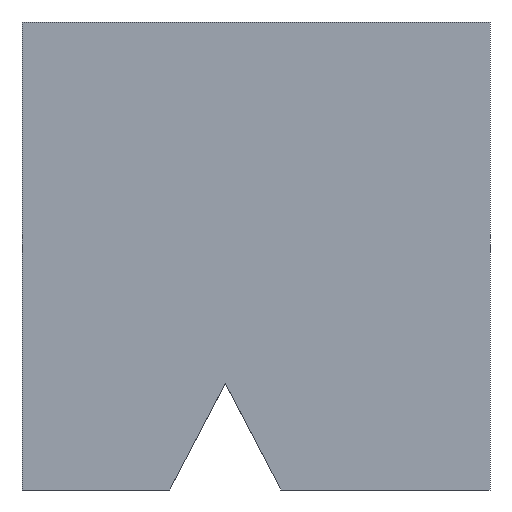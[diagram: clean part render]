
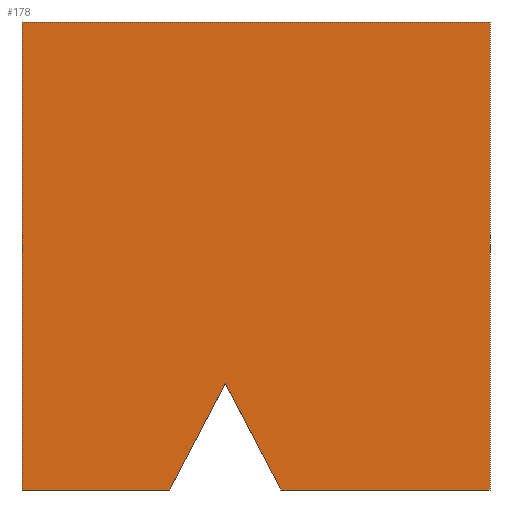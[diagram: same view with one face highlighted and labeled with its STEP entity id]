
A CAD part, front view. The second image highlights one B-rep face of the part: STEP entity #178.
In plain terms, the highlighted planar face has unit normal (0, -1, 0).
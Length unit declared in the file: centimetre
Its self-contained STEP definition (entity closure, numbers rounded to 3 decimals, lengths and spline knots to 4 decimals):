
#8 = CARTESIAN_POINT ( 'NONE',  ( 1000., 0., 1000. ) ) ;
#18 = AXIS2_PLACEMENT_3D ( 'NONE', #375, #132, #448 ) ;
#23 = VERTEX_POINT ( 'NONE', #528 ) ;
#45 = DIRECTION ( 'NONE',  ( -0.462, 0., -0.887 ) ) ;
#49 = VECTOR ( 'NONE', #502, 100. ) ;
#61 = PLANE ( 'NONE',  #18 ) ;
#62 = CARTESIAN_POINT ( 'NONE',  ( 0., 0., 1000. ) ) ;
#66 = ORIENTED_EDGE ( 'NONE', *, *, #365, .T. ) ;
#68 = VECTOR ( 'NONE', #121, 100. ) ;
#74 = ORIENTED_EDGE ( 'NONE', *, *, #323, .F. ) ;
#80 = ORIENTED_EDGE ( 'NONE', *, *, #225, .T. ) ;
#85 = ORIENTED_EDGE ( 'NONE', *, *, #326, .F. ) ;
#88 = LINE ( 'NONE', #524, #113 ) ;
#110 = VERTEX_POINT ( 'NONE', #499 ) ;
#113 = VECTOR ( 'NONE', #314, 100. ) ;
#114 = ORIENTED_EDGE ( 'NONE', *, *, #382, .F. ) ;
#121 = DIRECTION ( 'NONE',  ( 1., 0., 0. ) ) ;
#132 = DIRECTION ( 'NONE',  ( 0., 1., 0. ) ) ;
#138 = LINE ( 'NONE', #257, #49 ) ;
#150 = VERTEX_POINT ( 'NONE', #372 ) ;
#153 = ORIENTED_EDGE ( 'NONE', *, *, #472, .T. ) ;
#155 = VECTOR ( 'NONE', #271, 100. ) ;
#164 = VERTEX_POINT ( 'NONE', #221 ) ;
#178 = ADVANCED_FACE ( 'NONE', ( #457 ), #61, .F. ) ;
#182 = VECTOR ( 'NONE', #282, 100. ) ;
#193 = LINE ( 'NONE', #519, #155 ) ;
#200 = ORIENTED_EDGE ( 'NONE', *, *, #310, .F. ) ;
#221 = CARTESIAN_POINT ( 'NONE',  ( 315.7169, 0., 0. ) ) ;
#225 = EDGE_CURVE ( 'NONE', #514, #110, #193, .T. ) ;
#254 = LINE ( 'NONE', #402, #509 ) ;
#257 = CARTESIAN_POINT ( 'NONE',  ( 0., 0., 0. ) ) ;
#271 = DIRECTION ( 'NONE',  ( 0., 0., -1. ) ) ;
#282 = DIRECTION ( 'NONE',  ( 1., 0., 0. ) ) ;
#286 = CARTESIAN_POINT ( 'NONE',  ( 0., 0., 1000. ) ) ;
#307 = EDGE_LOOP ( 'NONE', ( #153, #114, #85, #66, #74, #200, #80 ) ) ;
#310 = EDGE_CURVE ( 'NONE', #514, #432, #526, .T. ) ;
#314 = DIRECTION ( 'NONE',  ( -0.462, 0., 0.887 ) ) ;
#316 = LINE ( 'NONE', #482, #182 ) ;
#323 = EDGE_CURVE ( 'NONE', #432, #23, #395, .T. ) ;
#326 = EDGE_CURVE ( 'NONE', #150, #495, #88, .T. ) ;
#365 = EDGE_CURVE ( 'NONE', #150, #23, #316, .T. ) ;
#372 = CARTESIAN_POINT ( 'NONE',  ( 553.187, 0., 0. ) ) ;
#375 = CARTESIAN_POINT ( 'NONE',  ( 0., 0., 1000. ) ) ;
#382 = EDGE_CURVE ( 'NONE', #495, #164, #254, .T. ) ;
#384 = VECTOR ( 'NONE', #446, 100. ) ;
#395 = LINE ( 'NONE', #538, #384 ) ;
#402 = CARTESIAN_POINT ( 'NONE',  ( 315.7169, 0., 0. ) ) ;
#428 = CARTESIAN_POINT ( 'NONE',  ( 434.4519, 0., 227.8276 ) ) ;
#432 = VERTEX_POINT ( 'NONE', #8 ) ;
#446 = DIRECTION ( 'NONE',  ( 0., 0., -1. ) ) ;
#448 = DIRECTION ( 'NONE',  ( 0., 0., 1. ) ) ;
#457 = FACE_OUTER_BOUND ( 'NONE', #307, .T. ) ;
#472 = EDGE_CURVE ( 'NONE', #110, #164, #138, .T. ) ;
#482 = CARTESIAN_POINT ( 'NONE',  ( 0., 0., 0. ) ) ;
#495 = VERTEX_POINT ( 'NONE', #428 ) ;
#499 = CARTESIAN_POINT ( 'NONE',  ( 0., 0., 0. ) ) ;
#502 = DIRECTION ( 'NONE',  ( 1., 0., 0. ) ) ;
#509 = VECTOR ( 'NONE', #45, 100. ) ;
#514 = VERTEX_POINT ( 'NONE', #62 ) ;
#519 = CARTESIAN_POINT ( 'NONE',  ( 0., 0., 1000. ) ) ;
#524 = CARTESIAN_POINT ( 'NONE',  ( 434.4519, 0., 227.8276 ) ) ;
#526 = LINE ( 'NONE', #286, #68 ) ;
#528 = CARTESIAN_POINT ( 'NONE',  ( 1000., 0., 0. ) ) ;
#538 = CARTESIAN_POINT ( 'NONE',  ( 1000., 0., 1000. ) ) ;
